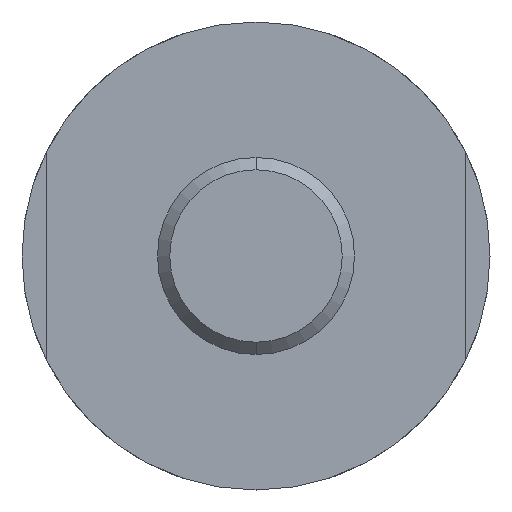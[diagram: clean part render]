
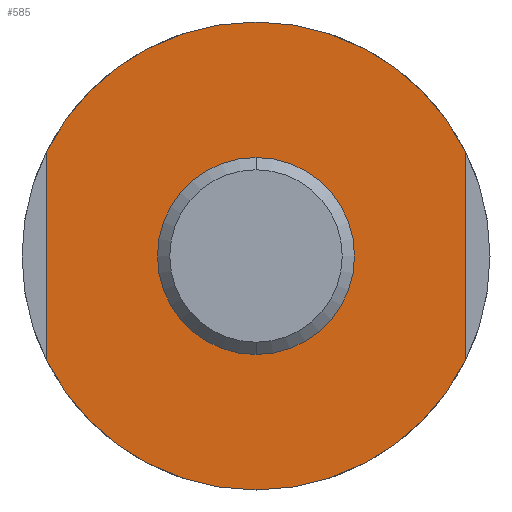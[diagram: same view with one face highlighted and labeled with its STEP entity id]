
A CAD part, front view. The second image highlights one B-rep face of the part: STEP entity #585.
In plain terms, the highlighted planar face has unit normal (0, -1, 0).
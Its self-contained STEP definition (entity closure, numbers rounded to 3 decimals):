
#14 = VERTEX_POINT ( 'NONE', #67 ) ;
#24 = EDGE_CURVE ( 'NONE', #14, #48, #193, .T. ) ;
#32 = DIRECTION ( 'NONE',  ( 0., 0., -1. ) ) ;
#48 = VERTEX_POINT ( 'NONE', #255 ) ;
#56 = EDGE_CURVE ( 'NONE', #127, #14, #557, .T. ) ;
#58 = EDGE_CURVE ( 'NONE', #48, #435, #162, .T. ) ;
#62 = CIRCLE ( 'NONE', #103, 3.5 ) ;
#64 = DIRECTION ( 'NONE',  ( 0., 1., 0. ) ) ;
#65 = DIRECTION ( 'NONE',  ( 0., -1., 0. ) ) ;
#67 = CARTESIAN_POINT ( 'NONE',  ( 8.5, 10., -4.243 ) ) ;
#72 = AXIS2_PLACEMENT_3D ( 'NONE', #159, #502, #203 ) ;
#73 = CARTESIAN_POINT ( 'NONE',  ( 0., 10., 9.5 ) ) ;
#82 = FACE_BOUND ( 'NONE', #90, .T. ) ;
#90 = EDGE_LOOP ( 'NONE', ( #293, #358 ) ) ;
#103 = AXIS2_PLACEMENT_3D ( 'NONE', #204, #551, #252 ) ;
#111 = EDGE_LOOP ( 'NONE', ( #512, #437, #256, #459, #177, #243 ) ) ;
#127 = VERTEX_POINT ( 'NONE', #184 ) ;
#139 = CARTESIAN_POINT ( 'NONE',  ( 0., 10., 0. ) ) ;
#146 = AXIS2_PLACEMENT_3D ( 'NONE', #467, #171, #519 ) ;
#159 = CARTESIAN_POINT ( 'NONE',  ( 0., 10., 0. ) ) ;
#162 = CIRCLE ( 'NONE', #265, 9.5 ) ;
#171 = DIRECTION ( 'NONE',  ( 0., -1., 0. ) ) ;
#176 = LINE ( 'NONE', #268, #436 ) ;
#177 = ORIENTED_EDGE ( 'NONE', *, *, #348, .T. ) ;
#184 = CARTESIAN_POINT ( 'NONE',  ( 0., 10., -9.5 ) ) ;
#185 = DIRECTION ( 'NONE',  ( 0., 0., -1. ) ) ;
#193 = LINE ( 'NONE', #560, #320 ) ;
#203 = DIRECTION ( 'NONE',  ( 0., 0., -1. ) ) ;
#204 = CARTESIAN_POINT ( 'NONE',  ( 0., 10., 0. ) ) ;
#218 = CIRCLE ( 'NONE', #463, 9.5 ) ;
#243 = ORIENTED_EDGE ( 'NONE', *, *, #628, .T. ) ;
#252 = DIRECTION ( 'NONE',  ( 0., 0., -1. ) ) ;
#255 = CARTESIAN_POINT ( 'NONE',  ( 8.5, 10., 4.243 ) ) ;
#256 = ORIENTED_EDGE ( 'NONE', *, *, #24, .T. ) ;
#265 = AXIS2_PLACEMENT_3D ( 'NONE', #617, #315, #32 ) ;
#268 = CARTESIAN_POINT ( 'NONE',  ( -8.5, 10., 0. ) ) ;
#293 = ORIENTED_EDGE ( 'NONE', *, *, #346, .F. ) ;
#303 = FACE_OUTER_BOUND ( 'NONE', #111, .T. ) ;
#306 = AXIS2_PLACEMENT_3D ( 'NONE', #353, #65, #399 ) ;
#308 = DIRECTION ( 'NONE',  ( 0., 0., 1. ) ) ;
#315 = DIRECTION ( 'NONE',  ( 0., -1., 0. ) ) ;
#320 = VECTOR ( 'NONE', #308, 1000. ) ;
#333 = EDGE_CURVE ( 'NONE', #409, #606, #444, .T. ) ;
#345 = CARTESIAN_POINT ( 'NONE',  ( -8.5, 10., 4.243 ) ) ;
#346 = EDGE_CURVE ( 'NONE', #606, #409, #62, .T. ) ;
#348 = EDGE_CURVE ( 'NONE', #435, #563, #546, .T. ) ;
#353 = CARTESIAN_POINT ( 'NONE',  ( 0., 10., 0. ) ) ;
#358 = ORIENTED_EDGE ( 'NONE', *, *, #333, .F. ) ;
#371 = DIRECTION ( 'NONE',  ( 0., 0., -1. ) ) ;
#396 = DIRECTION ( 'NONE',  ( 0., 0., 1. ) ) ;
#399 = DIRECTION ( 'NONE',  ( 0., 0., -1. ) ) ;
#401 = CARTESIAN_POINT ( 'NONE',  ( 0., 10., 3.5 ) ) ;
#409 = VERTEX_POINT ( 'NONE', #401 ) ;
#415 = CARTESIAN_POINT ( 'NONE',  ( -8.5, 10., -4.243 ) ) ;
#435 = VERTEX_POINT ( 'NONE', #73 ) ;
#436 = VECTOR ( 'NONE', #371, 1000. ) ;
#437 = ORIENTED_EDGE ( 'NONE', *, *, #56, .T. ) ;
#444 = CIRCLE ( 'NONE', #72, 3.5 ) ;
#447 = PLANE ( 'NONE',  #489 ) ;
#459 = ORIENTED_EDGE ( 'NONE', *, *, #58, .T. ) ;
#463 = AXIS2_PLACEMENT_3D ( 'NONE', #139, #481, #185 ) ;
#467 = CARTESIAN_POINT ( 'NONE',  ( 0., 10., 0. ) ) ;
#481 = DIRECTION ( 'NONE',  ( 0., -1., 0. ) ) ;
#482 = EDGE_CURVE ( 'NONE', #603, #127, #218, .T. ) ;
#489 = AXIS2_PLACEMENT_3D ( 'NONE', #550, #64, #396 ) ;
#502 = DIRECTION ( 'NONE',  ( 0., -1., 0. ) ) ;
#512 = ORIENTED_EDGE ( 'NONE', *, *, #482, .T. ) ;
#519 = DIRECTION ( 'NONE',  ( 0., 0., -1. ) ) ;
#546 = CIRCLE ( 'NONE', #306, 9.5 ) ;
#550 = CARTESIAN_POINT ( 'NONE',  ( -9.5, 10., 0. ) ) ;
#551 = DIRECTION ( 'NONE',  ( 0., -1., 0. ) ) ;
#557 = CIRCLE ( 'NONE', #146, 9.5 ) ;
#560 = CARTESIAN_POINT ( 'NONE',  ( 8.5, 10., 0. ) ) ;
#563 = VERTEX_POINT ( 'NONE', #345 ) ;
#585 = ADVANCED_FACE ( 'NONE', ( #82, #303 ), #447, .F. ) ;
#601 = CARTESIAN_POINT ( 'NONE',  ( 0., 10., -3.5 ) ) ;
#603 = VERTEX_POINT ( 'NONE', #415 ) ;
#606 = VERTEX_POINT ( 'NONE', #601 ) ;
#617 = CARTESIAN_POINT ( 'NONE',  ( 0., 10., 0. ) ) ;
#628 = EDGE_CURVE ( 'NONE', #563, #603, #176, .T. ) ;
